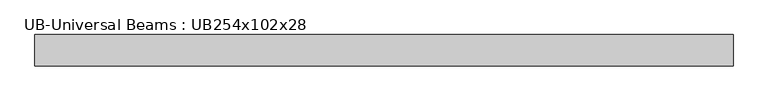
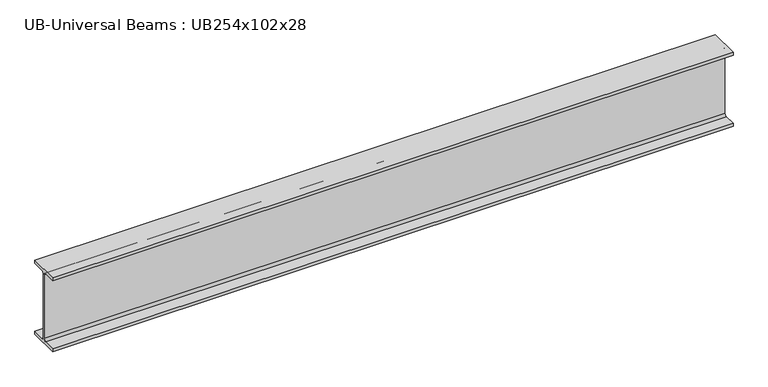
"""IFC4 building model written with IfcOpenShell, lengths in millimetres: beam geometry, UB-Universal Beams : UB254x102x28."""

import ifcopenshell
import ifcopenshell.guid

model = None  # the IFC model being written
_history = None  # IfcOwnerHistory: only IFC2X3 demands one
_inside = {}  # id of a spatial element -> (the spatial element, [elements in it])
_under = {}  # id of a project, library or spatial element -> (it, [spatial elements below it])
_declared = {}  # id of a project -> (the project, [libraries it declares])
_typed = {}  # id of a type object -> (the type object, [elements of that type])
_made_of = {}  # id of a material, layer set ... -> (it, [elements and type objects made of it])


def new_model(schema):
    """Start an empty IFC model of exactly this schema.

    Asked for "IFC4X3", IfcOpenShell would pick the latest addendum, in which some entities
    have other attributes; the version numbers below select the first issue.
    IFC2X3 requires an IfcOwnerHistory on every rooted entity: one is made here for all.
    """
    global model, _history
    if schema == "IFC4X3":
        model = ifcopenshell.file(schema_version=(4, 3, 0, 0))
    else:
        model = ifcopenshell.file(schema=schema)
    _inside.clear()
    _under.clear()
    _declared.clear()
    _typed.clear()
    _made_of.clear()
    _history = None
    if model.schema == "IFC2X3":
        org = make("IfcOrganization", Name="unknown")
        user = make(
            "IfcPersonAndOrganization",
            ThePerson=make("IfcPerson", FamilyName="unknown"),
            TheOrganization=org,
        )
        app = make(
            "IfcApplication",
            ApplicationDeveloper=org,
            Version="unknown",
            ApplicationFullName="unknown",
            ApplicationIdentifier="unknown",
        )
        _history = make(
            "IfcOwnerHistory",
            OwningUser=user,
            OwningApplication=app,
            ChangeAction="ADDED",
            CreationDate=0,
        )
    return model


def make(cls, **values):
    """One entity of the class cls with the attributes given. An attribute that is None is left unset."""
    return model.create_entity(
        cls, **{name: value for name, value in values.items() if value is not None}
    )


def rooted(cls, **values):
    """An entity with a GlobalId (a new one), such as an element, a storey or a relation."""
    return make(cls, GlobalId=ifcopenshell.guid.new(), OwnerHistory=_history, **values)


def si_unit(unit_type, name, prefix=None):
    """IfcSIUnit, for example si_unit("LENGTHUNIT", "METRE", prefix="MILLI")."""
    return make("IfcSIUnit", UnitType=unit_type, Prefix=prefix, Name=name)


def assignment(units):
    """IfcUnitAssignment: the units of a project."""
    return None if units is None else make("IfcUnitAssignment", Units=units)


def point(xyz):
    """IfcCartesianPoint."""
    return None if xyz is None else make("IfcCartesianPoint", Coordinates=xyz)


def direction(xyz):
    """IfcDirection."""
    return None if xyz is None else make("IfcDirection", DirectionRatios=xyz)


def frame(location, z_axis=None, x_axis=None):
    """IfcAxis2Placement3D, a coordinate frame: its origin and axes. An axis left out is left unset."""
    return make(
        "IfcAxis2Placement3D",
        Location=point(location),
        Axis=direction(z_axis),
        RefDirection=direction(x_axis),
    )


def frame_2d(location, x_axis=None):
    """IfcAxis2Placement2D, a coordinate frame in the plane: its origin and x axis."""
    return make(
        "IfcAxis2Placement2D", Location=point(location), RefDirection=direction(x_axis)
    )


def origin():
    """The frame at (0, 0, 0) with its axes left unset."""
    return frame((0.0, 0.0, 0.0))


def place(relative_to, where):
    """IfcLocalPlacement: puts the frame where relative to a parent placement (None: the world)."""
    return make(
        "IfcLocalPlacement", PlacementRelTo=relative_to, RelativePlacement=where
    )


def context(
    kind, dimensions, precision=None, world=None, true_north=None, identifier=None
):
    """IfcGeometricRepresentationContext, for example the 3D "Model" context."""
    return make(
        "IfcGeometricRepresentationContext",
        ContextIdentifier=identifier,
        ContextType=kind,
        CoordinateSpaceDimension=dimensions,
        Precision=precision,
        WorldCoordinateSystem=world,
        TrueNorth=true_north,
    )


def project(units=None, contexts=None):
    """IfcProject with its units and contexts."""
    return rooted(
        "IfcProject",
        Name="project",
        RepresentationContexts=contexts,
        UnitsInContext=assignment(units),
    )


def spatial(cls, under=None, at=None, **own):
    """A site, building, storey or space (cls), placed at a placement, below another one or the project."""
    s = rooted(cls, ObjectPlacement=at, **own)
    if under is not None:
        _under.setdefault(under.id(), (under, []))[1].append(s)
    return s


def polyline(points):
    """IfcPolyline through the points."""
    return make("IfcPolyline", Points=[point(p) for p in points])


def circle_curve(where, radius):
    """IfcCircle in the frame where."""
    return make("IfcCircle", Position=where, Radius=radius)


def trimmed(basis, trim1, trim2, sense, master):
    """IfcTrimmedCurve: the piece of a basis curve between two trims."""
    return make(
        "IfcTrimmedCurve",
        BasisCurve=basis,
        Trim1=trim1,
        Trim2=trim2,
        SenseAgreement=sense,
        MasterRepresentation=master,
    )


def segment(curve, same_sense, transition):
    """IfcCompositeCurveSegment."""
    return make(
        "IfcCompositeCurveSegment",
        Transition=transition,
        SameSense=same_sense,
        ParentCurve=curve,
    )


def composite_curve(segments, self_intersect=None):
    """IfcCompositeCurve: segments joined end to end."""
    return make("IfcCompositeCurve", Segments=segments, SelfIntersect=self_intersect)


def outline(outer, holes=None, kind="AREA"):
    """IfcArbitraryClosedProfileDef: a profile drawn as a closed curve; with holes, ...WithVoids."""
    if holes is None:
        return make("IfcArbitraryClosedProfileDef", ProfileType=kind, OuterCurve=outer)
    return make(
        "IfcArbitraryProfileDefWithVoids",
        ProfileType=kind,
        OuterCurve=outer,
        InnerCurves=holes,
    )


def extrude(swept, where, along, depth):
    """IfcExtrudedAreaSolid: the profile swept, set in the frame where, extruded along a direction by depth."""
    return make(
        "IfcExtrudedAreaSolid",
        SweptArea=swept,
        Position=where,
        ExtrudedDirection=direction(along),
        Depth=depth,
    )


def shape(context_of_items, identifier, shape_type, items):
    """IfcShapeRepresentation: the items that make up one representation, for example the "Body"."""
    return make(
        "IfcShapeRepresentation",
        ContextOfItems=context_of_items,
        RepresentationIdentifier=identifier,
        RepresentationType=shape_type,
        Items=items,
    )


def source(mapping_origin, context_of_items, identifier, shape_type, items):
    """IfcRepresentationMap: a shape defined once, which mapped items show again and again."""
    return make(
        "IfcRepresentationMap",
        MappingOrigin=mapping_origin,
        MappedRepresentation=shape(context_of_items, identifier, shape_type, items),
    )


def transform(
    local_origin,
    x_axis=None,
    y_axis=None,
    z_axis=None,
    scale=None,
    scale2=None,
    scale3=None,
    uniform=True,
):
    """IfcCartesianTransformationOperator3D, or its non-uniform kind. x_axis, y_axis, z_axis: its Axis1, 2, 3."""
    if uniform:
        return make(
            "IfcCartesianTransformationOperator3D",
            Axis1=direction(x_axis),
            Axis2=direction(y_axis),
            LocalOrigin=point(local_origin),
            Scale=scale,
            Axis3=direction(z_axis),
        )
    return make(
        "IfcCartesianTransformationOperator3DnonUniform",
        Axis1=direction(x_axis),
        Axis2=direction(y_axis),
        LocalOrigin=point(local_origin),
        Scale=scale,
        Axis3=direction(z_axis),
        Scale2=scale2,
        Scale3=scale3,
    )


def mapped(mapping_source, mapping_target):
    """IfcMappedItem: shows the shape of a source again, moved by a transform."""
    return make(
        "IfcMappedItem", MappingSource=mapping_source, MappingTarget=mapping_target
    )


def made_of(thing, what):
    """Note that an element or type object is made of a material, layer set ...; save() writes the relation."""
    if what is not None:
        _made_of.setdefault(what.id(), (what, []))[1].append(thing)
    return thing


def element(
    cls,
    number,
    at=None,
    inside=None,
    cuts=None,
    type_object=None,
    material=None,
    context=None,
    identifier="Body",
    shape_type=None,
    held_by="IfcProductDefinitionShape",
    body=None,
    shapes=None,
    **own,
):
    """One element of the class cls, such as IfcWall. Its Tag is "e" and its number.

    at: its placement. inside: the storey or other place that contains it. cuts: it is an
    opening in that element (IfcRelVoidsElement). A single representation is given by context,
    identifier, shape_type and body (its items); several are given by shapes. held_by: the class
    of the entity that holds the representations. save() writes the other relations.
    """
    e = rooted(cls, Tag="e%d" % number, ObjectPlacement=at, **own)
    if body is not None:
        shapes = [shape(context, identifier, shape_type, body)]
    if shapes is not None:
        e.Representation = make(held_by, Representations=shapes)
    if inside is not None:
        _inside.setdefault(inside.id(), (inside, []))[1].append(e)
    if cuts is not None:
        rooted(
            "IfcRelVoidsElement", RelatingBuildingElement=cuts, RelatedOpeningElement=e
        )
    if type_object is not None:
        _typed.setdefault(type_object.id(), (type_object, []))[1].append(e)
    return made_of(e, material)


def aggregate(whole, parts):
    """IfcRelAggregates: a whole, such as a stair, and the parts it consists of."""
    return rooted("IfcRelAggregates", RelatingObject=whole, RelatedObjects=parts)


def save(model, path):
    """Write the relations noted so far, then the file.

    IfcRelAggregates (storeys below a building ...), IfcRelContainedInSpatialStructure (elements
    in a storey), IfcRelDefinesByType, IfcRelAssociatesMaterial and IfcRelDeclares: one each for
    every whole, place, type object, material and project.
    """
    for whole, parts in _under.values():
        aggregate(whole, parts)
    for where, things in _inside.values():
        rooted(
            "IfcRelContainedInSpatialStructure",
            RelatedElements=things,
            RelatingStructure=where,
        )
    for kind, things in _typed.values():
        rooted("IfcRelDefinesByType", RelatedObjects=things, RelatingType=kind)
    for what, things in _made_of.values():
        rooted("IfcRelAssociatesMaterial", RelatedObjects=things, RelatingMaterial=what)
    for by, libraries in _declared.values():
        rooted("IfcRelDeclares", RelatingContext=by, RelatedDefinitions=libraries)
    model.write(path)


def ub_universal_beams_ub254x102x28_695b1ad2(model_context):
    return source(origin(), model_context, "Body", "SweptSolid", [
        extrude(outline(composite_curve([segment(polyline([(51.1, -120.2), (51.1, -130.2), (-51.1, -130.2), (-51.1, -120.2), (-10.75, -120.2)]), True, "CONTINUOUS"), segment(trimmed(circle_curve(frame_2d((-10.75, -112.6)), 7.6), [point((-10.75, -120.2))], [point((-3.15, -112.6))], True, "CARTESIAN"), True, "CONTINUOUS"), segment(polyline([(-3.15, -112.6), (-3.15, 112.6)]), True, "CONTINUOUS"), segment(trimmed(circle_curve(frame_2d((-10.75, 112.6)), 7.6), [point((-3.15, 112.6))], [point((-10.75, 120.2))], True, "CARTESIAN"), True, "CONTINUOUS"), segment(polyline([(-10.75, 120.2), (-51.1, 120.2), (-51.1, 130.2), (51.1, 130.2), (51.1, 120.2), (10.75, 120.2)]), True, "CONTINUOUS"), segment(trimmed(circle_curve(frame_2d((10.75, 112.6)), 7.6), [point((10.75, 120.2))], [point((3.15, 112.6))], True, "CARTESIAN"), True, "CONTINUOUS"), segment(polyline([(3.15, 112.6), (3.15, -112.6)]), True, "CONTINUOUS"), segment(trimmed(circle_curve(frame_2d((10.75, -112.6)), 7.6), [point((3.15, -112.6))], [point((10.75, -120.2))], True, "CARTESIAN"), True, "CONTINUOUS"), segment(polyline([(10.75, -120.2), (51.1, -120.2)]), True, "CONTINUOUS")], self_intersect=False)), frame((-1132.7, 0.0, 0.0), z_axis=(1.0, 0.0, 0.0), x_axis=(0.0, 1.0, 0.0)), (0.0, 0.0, 1.0), 2270.1),
    ])


if __name__ == "__main__":
    model = new_model("IFC4")
    model_context = context("Model", 3, world=origin())
    ifc_project = project(units=[si_unit("LENGTHUNIT", "METRE", prefix="MILLI")], contexts=[model_context])
    site = spatial("IfcSite", under=ifc_project)
    building = spatial("IfcBuilding", under=site)
    placement = place(None, origin())
    ub_universal_beams_ub254x102x28_shape = ub_universal_beams_ub254x102x28_695b1ad2(model_context)
    element("IfcBeam", 1, ObjectType="UB-Universal Beams : UB254x102x28", at=placement, inside=building, context=model_context, shape_type="MappedRepresentation", body=[
        mapped(ub_universal_beams_ub254x102x28_shape, transform((0.0, 0.0, 0.0), x_axis=(1.0, 0.0, 0.0), y_axis=(0.0, 1.0, 0.0), z_axis=(0.0, 0.0, 1.0))),
    ])
    save(model, "model.ifc")
